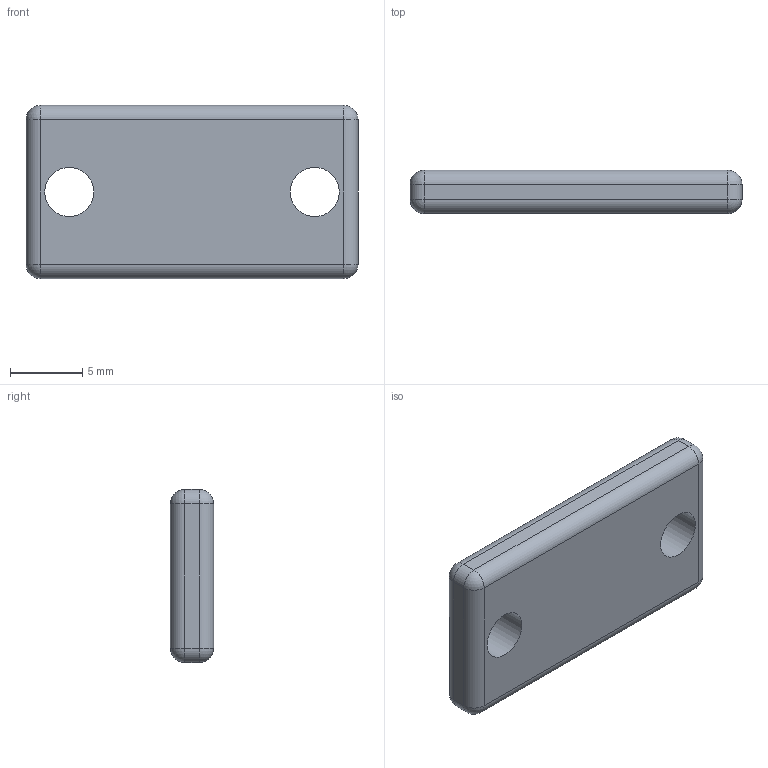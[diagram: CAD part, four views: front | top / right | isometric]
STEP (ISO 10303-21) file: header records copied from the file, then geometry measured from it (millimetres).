
FILE_DESCRIPTION(('Open CASCADE Model'),'2;1');
FILE_NAME('Open CASCADE Shape Model','2026-11-04T08:45:17',('Author'),( 'Open CASCADE'),'Open CASCADE STEP processor 7.8','Open CASCADE 7.8' ,'Unknown');
FILE_SCHEMA(('AUTOMOTIVE_DESIGN { 1 0 10303 214 1 1 1 1 }'));
Length unit declared in the file: millimetre
Products named in the file (1): Open CASCADE STEP translator 7.8 14
Bounding box: 23 x 3 x 12 mm (x, y, z)
Volume: 742.2 mm3; surface area: 723.4 mm2
Topology: 1 solids, 1 shells, 28 faces, 62 edges, 28 vertices
Faces by surface type: cylinder 14, sphere 8, plane 6
Full cylindrical faces by diameter (mm): 3.4 x2
Entity records: 1414 total; most frequent: DIRECTION 248, CARTESIAN_POINT 219, LINE 130, VECTOR 130, ORIENTED_EDGE 108, PCURVE 108, DEFINITIONAL_REPRESENTATION 108, AXIS2_PLACEMENT_3D 57
